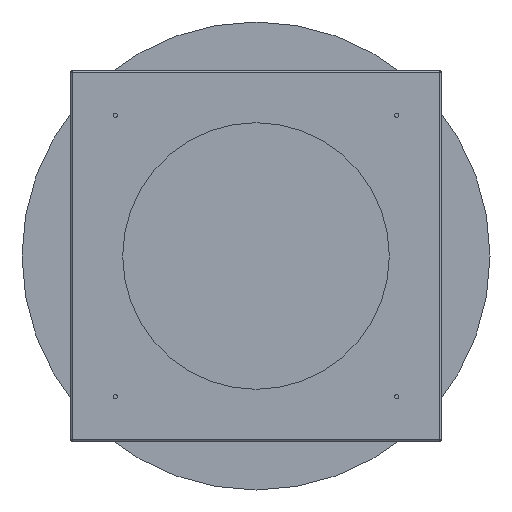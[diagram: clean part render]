
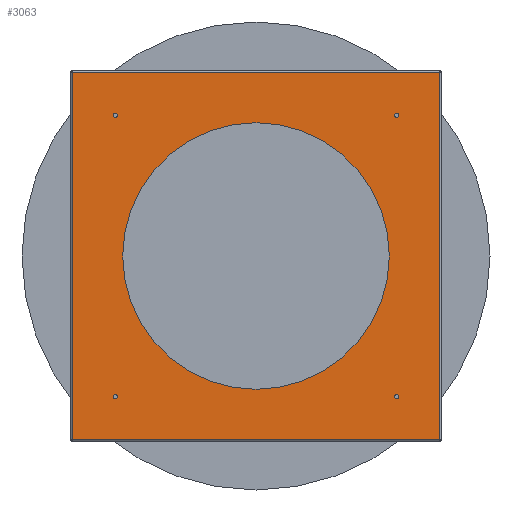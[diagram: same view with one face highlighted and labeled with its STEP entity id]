
A CAD part, front view. The second image highlights one B-rep face of the part: STEP entity #3063.
In plain terms, the highlighted planar face has unit normal (0, -1, 0).
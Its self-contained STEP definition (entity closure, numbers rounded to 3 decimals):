
#3063=ADVANCED_FACE('',(#6601,#6602,#6603,#6604,#6605,#6606),#6607,.F.);
#6601=FACE_BOUND('',#10148,.T.);
#6602=FACE_BOUND('',#10149,.T.);
#6603=FACE_BOUND('',#10150,.T.);
#6604=FACE_BOUND('',#10151,.T.);
#6605=FACE_BOUND('',#10152,.T.);
#6606=FACE_OUTER_BOUND('',#10153,.T.);
#6607=PLANE('',#10154);
#10148=EDGE_LOOP('',(#20210,#20211));
#10149=EDGE_LOOP('',(#20212,#20213));
#10150=EDGE_LOOP('',(#20214,#20215));
#10151=EDGE_LOOP('',(#20216,#20217));
#10152=EDGE_LOOP('',(#20218,#20219));
#10153=EDGE_LOOP('',(#20220,#20221,#20222,#20223));
#10154=AXIS2_PLACEMENT_3D('',#20224,#20225,#20226);
#20210=ORIENTED_EDGE('',*,*,#21356,.T.);
#20211=ORIENTED_EDGE('',*,*,#21323,.T.);
#20212=ORIENTED_EDGE('',*,*,#24254,.T.);
#20213=ORIENTED_EDGE('',*,*,#20325,.T.);
#20214=ORIENTED_EDGE('',*,*,#24257,.T.);
#20215=ORIENTED_EDGE('',*,*,#20320,.T.);
#20216=ORIENTED_EDGE('',*,*,#24260,.T.);
#20217=ORIENTED_EDGE('',*,*,#20315,.T.);
#20218=ORIENTED_EDGE('',*,*,#24263,.T.);
#20219=ORIENTED_EDGE('',*,*,#20310,.T.);
#20220=ORIENTED_EDGE('',*,*,#24271,.F.);
#20221=ORIENTED_EDGE('',*,*,#24277,.T.);
#20222=ORIENTED_EDGE('',*,*,#24283,.T.);
#20223=ORIENTED_EDGE('',*,*,#24311,.F.);
#20224=CARTESIAN_POINT('',(0.0,-378.0,0.0));
#20225=DIRECTION('',(0.0,1.0,0.0));
#20226=DIRECTION('',(0.0,0.0,1.0));
#20310=EDGE_CURVE('',#24351,#24355,#24357,.T.);
#20315=EDGE_CURVE('',#24360,#24364,#24366,.T.);
#20320=EDGE_CURVE('',#24369,#24373,#24375,.T.);
#20325=EDGE_CURVE('',#24378,#24382,#24384,.T.);
#21323=EDGE_CURVE('',#26368,#26372,#26374,.T.);
#21356=EDGE_CURVE('',#26372,#26368,#26420,.T.);
#24254=EDGE_CURVE('',#24382,#24378,#30267,.T.);
#24257=EDGE_CURVE('',#24373,#24369,#30270,.T.);
#24260=EDGE_CURVE('',#24364,#24360,#30273,.T.);
#24263=EDGE_CURVE('',#24355,#24351,#30276,.T.);
#24271=EDGE_CURVE('',#30281,#30287,#30288,.T.);
#24277=EDGE_CURVE('',#30281,#30295,#30297,.T.);
#24283=EDGE_CURVE('',#30295,#30299,#30306,.T.);
#24311=EDGE_CURVE('',#30287,#30299,#30347,.T.);
#24351=VERTEX_POINT('',#30390);
#24355=VERTEX_POINT('',#30395);
#24357=CIRCLE('',#30398,7.0);
#24360=VERTEX_POINT('',#30401);
#24364=VERTEX_POINT('',#30406);
#24366=CIRCLE('',#30409,7.0);
#24369=VERTEX_POINT('',#30412);
#24373=VERTEX_POINT('',#30417);
#24375=CIRCLE('',#30420,7.0);
#24378=VERTEX_POINT('',#30423);
#24382=VERTEX_POINT('',#30428);
#24384=CIRCLE('',#30431,7.0);
#26368=VERTEX_POINT('',#32433);
#26372=VERTEX_POINT('',#32438);
#26374=CIRCLE('',#32441,450.0);
#26420=CIRCLE('',#32491,450.0);
#30267=CIRCLE('',#37298,7.0);
#30270=CIRCLE('',#37301,7.0);
#30273=CIRCLE('',#37304,7.0);
#30276=CIRCLE('',#37307,7.0);
#30281=VERTEX_POINT('',#37312);
#30287=VERTEX_POINT('',#37318);
#30288=LINE('',#37319,#37320);
#30295=VERTEX_POINT('',#37329);
#30297=LINE('',#37331,#37332);
#30299=VERTEX_POINT('',#37334);
#30306=LINE('',#37341,#37342);
#30347=LINE('',#37391,#37392);
#30390=CARTESIAN_POINT('',(-468.0,-378.0,-475.0));
#30395=CARTESIAN_POINT('',(-482.0,-378.0,-475.0));
#30398=AXIS2_PLACEMENT_3D('',#37445,#37446,#37447);
#30401=CARTESIAN_POINT('',(482.0,-378.0,-475.0));
#30406=CARTESIAN_POINT('',(468.0,-378.0,-475.0));
#30409=AXIS2_PLACEMENT_3D('',#37453,#37454,#37455);
#30412=CARTESIAN_POINT('',(482.0,-378.0,475.0));
#30417=CARTESIAN_POINT('',(468.0,-378.0,475.0));
#30420=AXIS2_PLACEMENT_3D('',#37461,#37462,#37463);
#30423=CARTESIAN_POINT('',(-468.0,-378.0,475.0));
#30428=CARTESIAN_POINT('',(-482.0,-378.0,475.0));
#30431=AXIS2_PLACEMENT_3D('',#37469,#37470,#37471);
#32433=CARTESIAN_POINT('',(450.0,-378.0,0.));
#32438=CARTESIAN_POINT('',(-450.0,-378.0,0.));
#32441=AXIS2_PLACEMENT_3D('',#40408,#40409,#40410);
#32491=AXIS2_PLACEMENT_3D('',#40466,#40467,#40468);
#37298=AXIS2_PLACEMENT_3D('',#44336,#44337,#44338);
#37301=AXIS2_PLACEMENT_3D('',#44342,#44343,#44344);
#37304=AXIS2_PLACEMENT_3D('',#44348,#44349,#44350);
#37307=AXIS2_PLACEMENT_3D('',#44354,#44355,#44356);
#37312=CARTESIAN_POINT('',(620.0,-378.0,620.0));
#37318=CARTESIAN_POINT('',(620.0,-378.0,-620.0));
#37319=CARTESIAN_POINT('',(620.0,-378.0,0.0));
#37320=VECTOR('',#44369,1.0);
#37329=CARTESIAN_POINT('',(-620.0,-378.0,620.0));
#37331=CARTESIAN_POINT('',(0.0,-378.0,620.0));
#37332=VECTOR('',#44378,1.0);
#37334=CARTESIAN_POINT('',(-620.0,-378.0,-620.0));
#37341=CARTESIAN_POINT('',(-620.0,-378.0,0.0));
#37342=VECTOR('',#44388,1.0);
#37391=CARTESIAN_POINT('',(0.,-378.0,-620.0));
#37392=VECTOR('',#44433,1.0);
#37445=CARTESIAN_POINT('',(-475.0,-378.0,-475.0));
#37446=DIRECTION('',(-0.0,1.0,0.0));
#37447=DIRECTION('',(1.0,0.0,0.0));
#37453=CARTESIAN_POINT('',(475.0,-378.0,-475.0));
#37454=DIRECTION('',(-0.0,1.0,0.0));
#37455=DIRECTION('',(1.0,0.0,0.0));
#37461=CARTESIAN_POINT('',(475.0,-378.0,475.0));
#37462=DIRECTION('',(-0.0,1.0,0.0));
#37463=DIRECTION('',(1.0,0.0,0.0));
#37469=CARTESIAN_POINT('',(-475.0,-378.0,475.0));
#37470=DIRECTION('',(-0.0,1.0,0.0));
#37471=DIRECTION('',(1.0,0.0,0.0));
#40408=CARTESIAN_POINT('',(0.0,-378.0,0.0));
#40409=DIRECTION('',(-0.0,1.0,0.0));
#40410=DIRECTION('',(1.0,0.0,0.0));
#40466=CARTESIAN_POINT('',(0.0,-378.0,0.0));
#40467=DIRECTION('',(-0.0,1.0,0.0));
#40468=DIRECTION('',(1.0,0.0,0.0));
#44336=CARTESIAN_POINT('',(-475.0,-378.0,475.0));
#44337=DIRECTION('',(-0.0,1.0,0.0));
#44338=DIRECTION('',(1.0,0.0,0.0));
#44342=CARTESIAN_POINT('',(475.0,-378.0,475.0));
#44343=DIRECTION('',(-0.0,1.0,0.0));
#44344=DIRECTION('',(1.0,0.0,0.0));
#44348=CARTESIAN_POINT('',(475.0,-378.0,-475.0));
#44349=DIRECTION('',(-0.0,1.0,0.0));
#44350=DIRECTION('',(1.0,0.0,0.0));
#44354=CARTESIAN_POINT('',(-475.0,-378.0,-475.0));
#44355=DIRECTION('',(-0.0,1.0,0.0));
#44356=DIRECTION('',(1.0,0.0,0.0));
#44369=DIRECTION('',(0.0,0.0,-1.0));
#44378=DIRECTION('',(-1.0,0.,0.));
#44388=DIRECTION('',(0.0,0.0,-1.0));
#44433=DIRECTION('',(-1.0,0.,0.));
